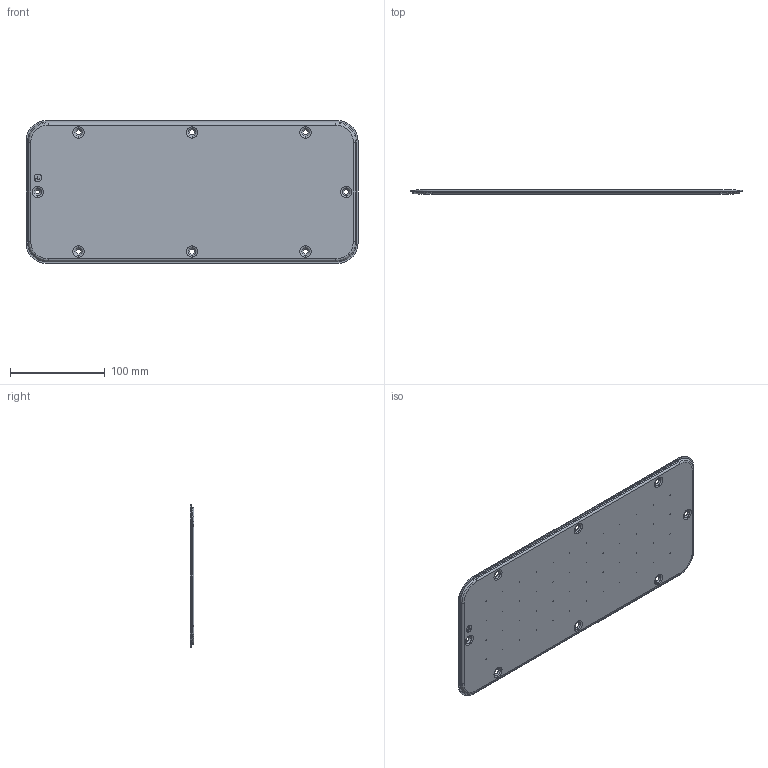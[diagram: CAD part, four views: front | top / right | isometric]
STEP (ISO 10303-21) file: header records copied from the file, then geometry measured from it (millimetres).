
FILE_DESCRIPTION (( 'STEP AP203' ), '1' );
FILE_NAME ('ECIC0004.STEP', '2020-04-07T14:13:07', ( '' ), ( '' ), 'SwSTEP 2.0', 'SolidWorks 2019', '' );
FILE_SCHEMA (( 'CONFIG_CONTROL_DESIGN' ));
Length unit declared in the file: millimetre
Products named in the file (1): ECIC0004
Bounding box: 351 x 4 x 151 mm (x, y, z)
Volume: 64458.4 mm3; surface area: 108901.3 mm2
Topology: 1 solids, 1 shells, 314 faces, 716 edges, 456 vertices
Faces by surface type: cylinder 126, plane 84, cone 48, torus 32, bspline 24
Entity records: 9527 total; most frequent: CARTESIAN_POINT 2187, DIRECTION 1654, ORIENTED_EDGE 1432, EDGE_CURVE 716, AXIS2_PLACEMENT_3D 695, VERTEX_POINT 456, CIRCLE 404, EDGE_LOOP 382
